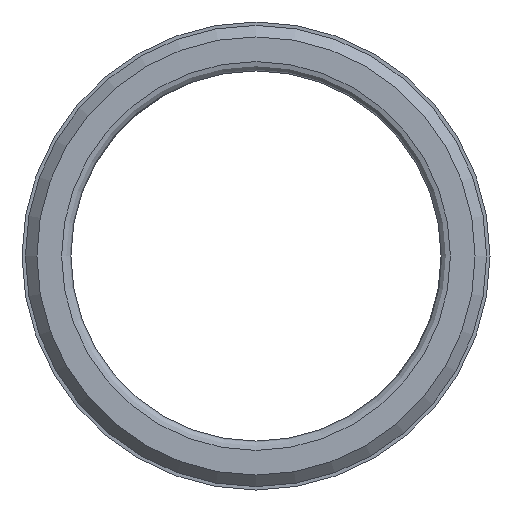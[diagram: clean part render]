
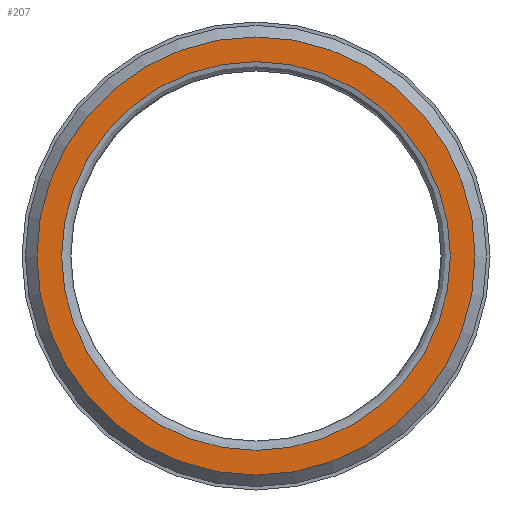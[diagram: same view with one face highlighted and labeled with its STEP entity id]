
A CAD part, front view. The second image highlights one B-rep face of the part: STEP entity #207.
In plain terms, the highlighted planar face has unit normal (0, -1, 0).
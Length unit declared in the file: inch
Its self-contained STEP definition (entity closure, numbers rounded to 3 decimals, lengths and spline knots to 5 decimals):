
#22=FACE_BOUND('',#44,.T.);
#26=PLANE('',#236);
#31=FACE_OUTER_BOUND('',#43,.T.);
#43=EDGE_LOOP('',(#150));
#44=EDGE_LOOP('',(#151,#152));
#68=CIRCLE('',#233,0.235);
#71=CIRCLE('',#237,0.2085);
#72=CIRCLE('',#238,0.2085);
#93=VERTEX_POINT('',#352);
#96=VERTEX_POINT('',#360);
#97=VERTEX_POINT('',#361);
#115=EDGE_CURVE('',#93,#93,#68,.T.);
#119=EDGE_CURVE('',#96,#97,#71,.T.);
#120=EDGE_CURVE('',#97,#96,#72,.T.);
#150=ORIENTED_EDGE('',*,*,#115,.F.);
#151=ORIENTED_EDGE('',*,*,#119,.F.);
#152=ORIENTED_EDGE('',*,*,#120,.F.);
#207=ADVANCED_FACE('',(#31,#22),#26,.T.);
#233=AXIS2_PLACEMENT_3D('',#353,#273,#274);
#236=AXIS2_PLACEMENT_3D('',#359,#280,#281);
#237=AXIS2_PLACEMENT_3D('',#362,#282,#283);
#238=AXIS2_PLACEMENT_3D('',#363,#284,#285);
#273=DIRECTION('center_axis',(0.,1.,0.));
#274=DIRECTION('ref_axis',(0.,0.,1.));
#280=DIRECTION('center_axis',(0.,-1.,0.));
#281=DIRECTION('ref_axis',(0.,0.,-1.));
#282=DIRECTION('center_axis',(0.,-1.,0.));
#283=DIRECTION('ref_axis',(0.,0.,1.));
#284=DIRECTION('center_axis',(0.,-1.,0.));
#285=DIRECTION('ref_axis',(0.,0.,1.));
#352=CARTESIAN_POINT('',(0.,0.,-0.235));
#353=CARTESIAN_POINT('Origin',(0.,0.,0.));
#359=CARTESIAN_POINT('Origin',(0.,0.,-0.1985));
#360=CARTESIAN_POINT('',(0.,0.,-0.2085));
#361=CARTESIAN_POINT('',(0.,0.,0.2085));
#362=CARTESIAN_POINT('Origin',(0.,0.,0.));
#363=CARTESIAN_POINT('Origin',(0.,0.,0.));
